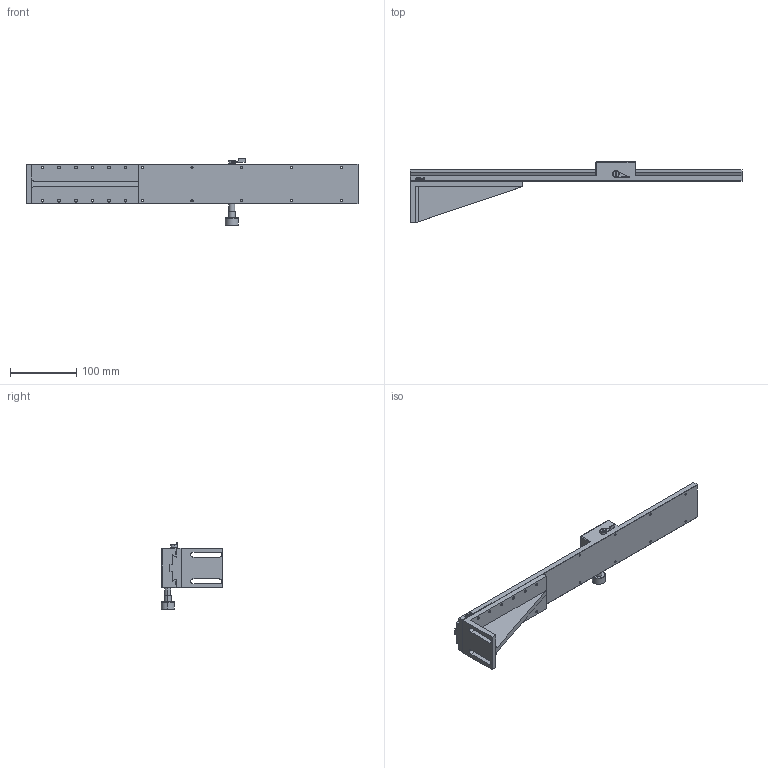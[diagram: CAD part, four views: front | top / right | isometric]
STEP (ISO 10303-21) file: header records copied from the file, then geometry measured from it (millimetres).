
FILE_DESCRIPTION (( 'STEP AP214' ), '1' );
FILE_NAME ('PT-DZ60-500.STEP', '2022-09-17T04:29:43', ( '' ), ( '' ), 'SwSTEP 2.0', 'SolidWorks 2017', '' );
FILE_SCHEMA (( 'AUTOMOTIVE_DESIGN' ));
Length unit declared in the file: millimetre
Products named in the file (3): 60 L倰啣-150; LWX60-500; PT-DZ60-500
Assembly tree (2 placements, depth 2):
  PT-DZ60-500
    LWX60-500
    60 L倰啣-150
Bounding box: 500 x 93 x 101 mm (x, y, z)
Volume: 556856 mm3; surface area: 138107.3 mm2
Topology: 2 solids, 7 shells, 725 faces, 1874 edges, 1223 vertices
Faces by surface type: plane 367, cylinder 162, bspline 152, cone 44
Entity records: 32725 total; most frequent: CARTESIAN_POINT 11443, ORIENTED_EDGE 3748, DIRECTION 3094, EDGE_CURVE 1874, VERTEX_POINT 1223, LINE 1170, VECTOR 1170, AXIS2_PLACEMENT_3D 962
